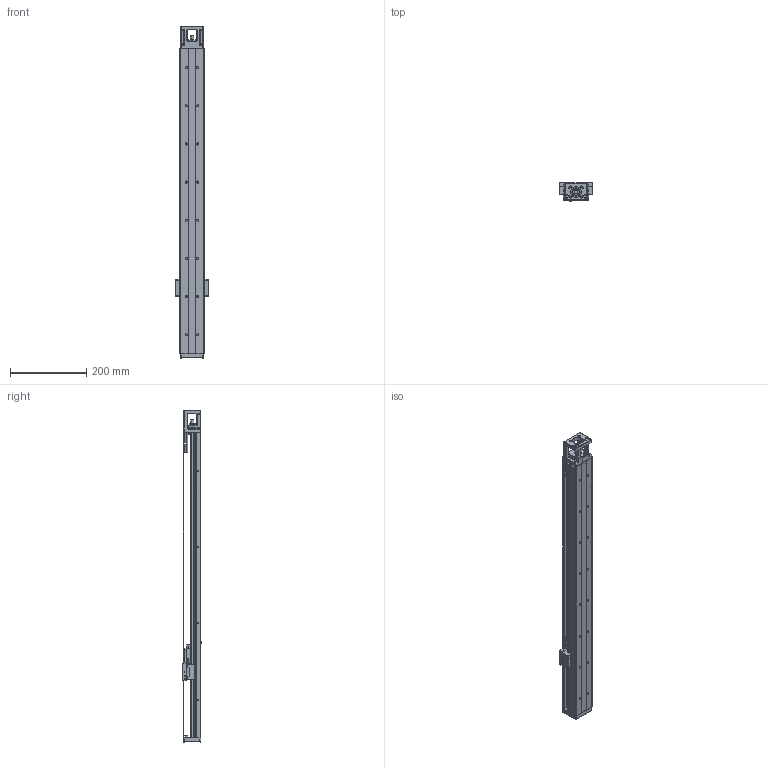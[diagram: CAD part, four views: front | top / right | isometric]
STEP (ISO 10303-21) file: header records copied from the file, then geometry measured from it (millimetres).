
FILE_DESCRIPTION((''),'2;1');
FILE_NAME('HKK60D-800A1F0C','2021-03-22T',('Administrator'),(''),'PRO/ENGINEER BY PARAMETRIC TECHNOLOGY CORPORATION, 2010280','PRO/ENGINEER BY PARAMETRIC TECHNOLOGY CORPORATION, 2010280','');
FILE_SCHEMA(('CONFIG_CONTROL_DESIGN'));
Products named in the file (1): HKK60D-800A1F0C
Bounding box: 86 x 49.76 x 870 mm (x, y, z)
Volume: 813397.3 mm3; surface area: 469075 mm2
Topology: 32 solids, 118 shells, 1806 faces, 4547 edges, 2770 vertices
Faces by surface type: cylinder 803, plane 509, cone 280, torus 100, sphere 86, bspline 28
Entity records: 58071 total; most frequent: CARTESIAN_POINT 15468, DIRECTION 9242, ORIENTED_EDGE 8273, EDGE_CURVE 4323, AXIS2_PLACEMENT_3D 3625, VERTEX_POINT 2770, EDGE_LOOP 2121, VECTOR 1992
